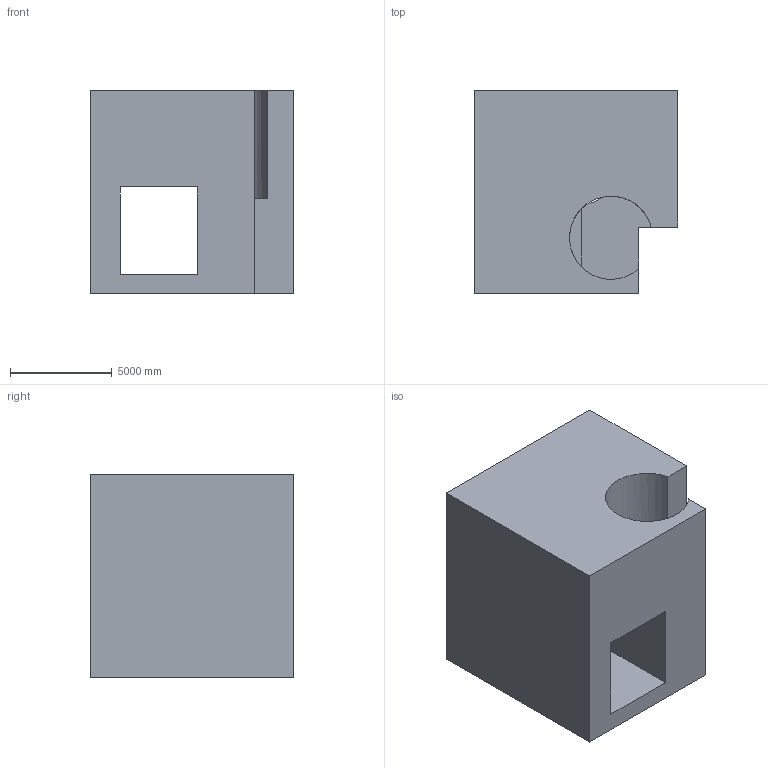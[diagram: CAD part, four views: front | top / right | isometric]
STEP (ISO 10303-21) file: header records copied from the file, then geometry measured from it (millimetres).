
FILE_DESCRIPTION (( 'STEP AP203' ), '1' );
FILE_NAME ('75.STEP', '2022-08-31T11:25:19', ( 'user' ), ( '' ), 'SwSTEP 2.0', 'SolidWorks 2021', '' );
FILE_SCHEMA (( 'CONFIG_CONTROL_DESIGN' ));
Length unit declared in the file: centimetre
Products named in the file (1): 75
Bounding box: 10000 x 10000 x 10000 mm (x, y, z)
Volume: 646191850776.7 mm3; surface area: 781744152.7 mm2
Topology: 1 solids, 1 shells, 18 faces, 63 edges, 42 vertices
Faces by surface type: plane 15, cylinder 3
Entity records: 776 total; most frequent: ORIENTED_EDGE 126, CARTESIAN_POINT 124, DIRECTION 117, EDGE_CURVE 63, LINE 47, VECTOR 47, VERTEX_POINT 42, AXIS2_PLACEMENT_3D 35
